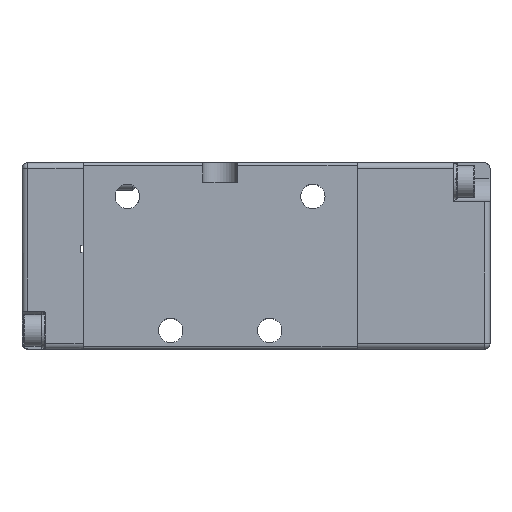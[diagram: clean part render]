
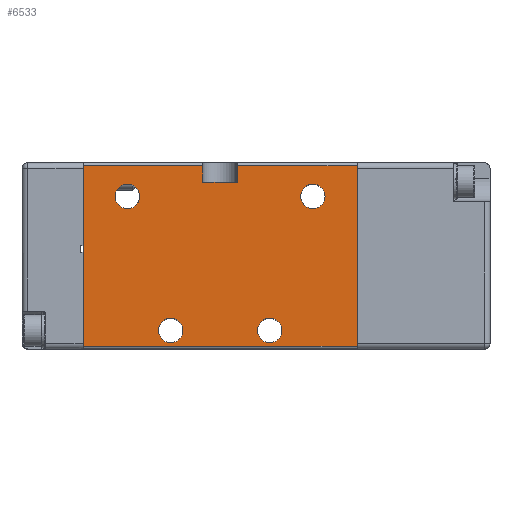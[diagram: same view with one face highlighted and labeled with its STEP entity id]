
A CAD part, top view. The second image highlights one B-rep face of the part: STEP entity #6533.
In plain terms, the highlighted planar face has unit normal (0, 0, 1).
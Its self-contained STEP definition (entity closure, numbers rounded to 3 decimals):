
#312 = ORIENTED_EDGE ( 'NONE', *, *, #4575, .F. ) ;
#416 = EDGE_LOOP ( 'NONE', ( #6093 ) ) ;
#433 = CIRCLE ( 'NONE', #2318, 2.1 ) ;
#532 = DIRECTION ( 'NONE',  ( 1., 0., 0. ) ) ;
#545 = CARTESIAN_POINT ( 'NONE',  ( -62.333, -16.7, 11. ) ) ;
#650 = CARTESIAN_POINT ( 'NONE',  ( 23.5, -16.7, 11. ) ) ;
#778 = CARTESIAN_POINT ( 'NONE',  ( -3., 11.4, 11. ) ) ;
#980 = VERTEX_POINT ( 'NONE', #8239 ) ;
#1083 = EDGE_CURVE ( 'NONE', #10926, #4078, #4458, .T. ) ;
#1145 = FACE_BOUND ( 'NONE', #6508, .T. ) ;
#1238 = EDGE_CURVE ( 'NONE', #9467, #9467, #7441, .T. ) ;
#1342 = LINE ( 'NONE', #3403, #8715 ) ;
#1380 = VECTOR ( 'NONE', #532, 1000. ) ;
#1426 = EDGE_CURVE ( 'NONE', #4078, #980, #6850, .T. ) ;
#1429 = FACE_BOUND ( 'NONE', #416, .T. ) ;
#1555 = EDGE_CURVE ( 'NONE', #9167, #9167, #6825, .T. ) ;
#1573 = DIRECTION ( 'NONE',  ( 0., 1., 0. ) ) ;
#1661 = DIRECTION ( 'NONE',  ( 0., 1., 0. ) ) ;
#1742 = EDGE_CURVE ( 'NONE', #10812, #6496, #2952, .T. ) ;
#1771 = CARTESIAN_POINT ( 'NONE',  ( 3., 11.4, 11. ) ) ;
#1783 = CARTESIAN_POINT ( 'NONE',  ( -13.8, 9., 11. ) ) ;
#1829 = CARTESIAN_POINT ( 'NONE',  ( 3., 11.4, 11. ) ) ;
#1983 = VECTOR ( 'NONE', #1573, 1000. ) ;
#2198 = CARTESIAN_POINT ( 'NONE',  ( -8.5, -14., 11. ) ) ;
#2263 = EDGE_CURVE ( 'NONE', #10926, #10812, #4974, .T. ) ;
#2281 = EDGE_CURVE ( 'NONE', #2387, #5406, #11201, .T. ) ;
#2318 = AXIS2_PLACEMENT_3D ( 'NONE', #2198, #8997, #3108 ) ;
#2387 = VERTEX_POINT ( 'NONE', #11958 ) ;
#2431 = DIRECTION ( 'NONE',  ( 0., 0., 1. ) ) ;
#2437 = VERTEX_POINT ( 'NONE', #8630 ) ;
#2743 = CIRCLE ( 'NONE', #3968, 2.1 ) ;
#2886 = EDGE_CURVE ( 'NONE', #2387, #6496, #8752, .T. ) ;
#2952 = LINE ( 'NONE', #9226, #9936 ) ;
#3108 = DIRECTION ( 'NONE',  ( 1., 0., 0. ) ) ;
#3403 = CARTESIAN_POINT ( 'NONE',  ( -62.333, 14.3, 11. ) ) ;
#3407 = ORIENTED_EDGE ( 'NONE', *, *, #5949, .T. ) ;
#3476 = ORIENTED_EDGE ( 'NONE', *, *, #1426, .F. ) ;
#3561 = FACE_BOUND ( 'NONE', #6610, .T. ) ;
#3679 = AXIS2_PLACEMENT_3D ( 'NONE', #6387, #6344, #6285 ) ;
#3968 = AXIS2_PLACEMENT_3D ( 'NONE', #4437, #11131, #5438 ) ;
#4045 = VECTOR ( 'NONE', #9136, 1000. ) ;
#4059 = CARTESIAN_POINT ( 'NONE',  ( -23.5, 14.3, 11. ) ) ;
#4078 = VERTEX_POINT ( 'NONE', #1771 ) ;
#4435 = EDGE_LOOP ( 'NONE', ( #8814 ) ) ;
#4437 = CARTESIAN_POINT ( 'NONE',  ( 8.5, -14., 11. ) ) ;
#4458 = LINE ( 'NONE', #7944, #7622 ) ;
#4575 = EDGE_CURVE ( 'NONE', #2437, #2437, #433, .T. ) ;
#4714 = ORIENTED_EDGE ( 'NONE', *, *, #2886, .F. ) ;
#4974 = LINE ( 'NONE', #778, #4045 ) ;
#5184 = PLANE ( 'NONE',  #10689 ) ;
#5394 = ORIENTED_EDGE ( 'NONE', *, *, #8169, .T. ) ;
#5404 = DIRECTION ( 'NONE',  ( 0., 0., -1. ) ) ;
#5406 = VERTEX_POINT ( 'NONE', #650 ) ;
#5409 = CARTESIAN_POINT ( 'NONE',  ( -3., 14.3, 11. ) ) ;
#5438 = DIRECTION ( 'NONE',  ( 1., 0., 0. ) ) ;
#5612 = CARTESIAN_POINT ( 'NONE',  ( 18., 9., 11. ) ) ;
#5949 = EDGE_CURVE ( 'NONE', #12013, #980, #1342, .T. ) ;
#6093 = ORIENTED_EDGE ( 'NONE', *, *, #1555, .F. ) ;
#6237 = FACE_OUTER_BOUND ( 'NONE', #10463, .T. ) ;
#6285 = DIRECTION ( 'NONE',  ( 1., 0., 0. ) ) ;
#6344 = DIRECTION ( 'NONE',  ( 0., 0., 1. ) ) ;
#6387 = CARTESIAN_POINT ( 'NONE',  ( 15.9, 9., 11. ) ) ;
#6496 = VERTEX_POINT ( 'NONE', #4059 ) ;
#6508 = EDGE_LOOP ( 'NONE', ( #8015 ) ) ;
#6533 = ADVANCED_FACE ( 'NONE', ( #3561, #1145, #6547, #1429, #6237 ), #5184, .F. ) ;
#6547 = FACE_BOUND ( 'NONE', #4435, .T. ) ;
#6588 = CARTESIAN_POINT ( 'NONE',  ( -3., 11.4, 11. ) ) ;
#6610 = EDGE_LOOP ( 'NONE', ( #312 ) ) ;
#6825 = CIRCLE ( 'NONE', #11659, 2.1 ) ;
#6850 = LINE ( 'NONE', #1829, #7417 ) ;
#6964 = CARTESIAN_POINT ( 'NONE',  ( 23.5, 14.3, 11. ) ) ;
#7317 = DIRECTION ( 'NONE',  ( 1., 0., 0. ) ) ;
#7403 = ORIENTED_EDGE ( 'NONE', *, *, #1083, .F. ) ;
#7417 = VECTOR ( 'NONE', #1661, 1000. ) ;
#7441 = CIRCLE ( 'NONE', #3679, 2.1 ) ;
#7562 = ORIENTED_EDGE ( 'NONE', *, *, #2263, .T. ) ;
#7622 = VECTOR ( 'NONE', #7317, 1000. ) ;
#7944 = CARTESIAN_POINT ( 'NONE',  ( 3., 11.4, 11. ) ) ;
#8015 = ORIENTED_EDGE ( 'NONE', *, *, #11683, .F. ) ;
#8169 = EDGE_CURVE ( 'NONE', #5406, #12013, #9703, .T. ) ;
#8239 = CARTESIAN_POINT ( 'NONE',  ( 3., 14.3, 11. ) ) ;
#8630 = CARTESIAN_POINT ( 'NONE',  ( -6.4, -14., 11. ) ) ;
#8715 = VECTOR ( 'NONE', #10150, 1000. ) ;
#8752 = LINE ( 'NONE', #10466, #11186 ) ;
#8814 = ORIENTED_EDGE ( 'NONE', *, *, #1238, .F. ) ;
#8854 = DIRECTION ( 'NONE',  ( -1., 0., 0. ) ) ;
#8997 = DIRECTION ( 'NONE',  ( 0., 0., 1. ) ) ;
#9136 = DIRECTION ( 'NONE',  ( 0., 1., 0. ) ) ;
#9154 = VERTEX_POINT ( 'NONE', #10642 ) ;
#9167 = VERTEX_POINT ( 'NONE', #1783 ) ;
#9226 = CARTESIAN_POINT ( 'NONE',  ( -62.333, 14.3, 11. ) ) ;
#9467 = VERTEX_POINT ( 'NONE', #5612 ) ;
#9703 = LINE ( 'NONE', #12020, #1983 ) ;
#9875 = ORIENTED_EDGE ( 'NONE', *, *, #1742, .T. ) ;
#9936 = VECTOR ( 'NONE', #8854, 1000. ) ;
#10150 = DIRECTION ( 'NONE',  ( -1., 0., 0. ) ) ;
#10463 = EDGE_LOOP ( 'NONE', ( #7403, #7562, #9875, #4714, #11593, #5394, #3407, #3476 ) ) ;
#10466 = CARTESIAN_POINT ( 'NONE',  ( -23.5, -17.2, 11. ) ) ;
#10500 = DIRECTION ( 'NONE',  ( 0., 1., 0. ) ) ;
#10642 = CARTESIAN_POINT ( 'NONE',  ( 10.6, -14., 11. ) ) ;
#10689 = AXIS2_PLACEMENT_3D ( 'NONE', #11099, #5404, #12049 ) ;
#10812 = VERTEX_POINT ( 'NONE', #5409 ) ;
#10926 = VERTEX_POINT ( 'NONE', #6588 ) ;
#11099 = CARTESIAN_POINT ( 'NONE',  ( -62.333, -17.2, 11. ) ) ;
#11131 = DIRECTION ( 'NONE',  ( 0., 0., 1. ) ) ;
#11186 = VECTOR ( 'NONE', #10500, 1000. ) ;
#11201 = LINE ( 'NONE', #545, #1380 ) ;
#11593 = ORIENTED_EDGE ( 'NONE', *, *, #2281, .T. ) ;
#11659 = AXIS2_PLACEMENT_3D ( 'NONE', #12213, #2431, #12162 ) ;
#11683 = EDGE_CURVE ( 'NONE', #9154, #9154, #2743, .T. ) ;
#11958 = CARTESIAN_POINT ( 'NONE',  ( -23.5, -16.7, 11. ) ) ;
#12013 = VERTEX_POINT ( 'NONE', #6964 ) ;
#12020 = CARTESIAN_POINT ( 'NONE',  ( 23.5, -17.2, 11. ) ) ;
#12049 = DIRECTION ( 'NONE',  ( -1., 0., 0. ) ) ;
#12162 = DIRECTION ( 'NONE',  ( 1., 0., 0. ) ) ;
#12213 = CARTESIAN_POINT ( 'NONE',  ( -15.9, 9., 11. ) ) ;
